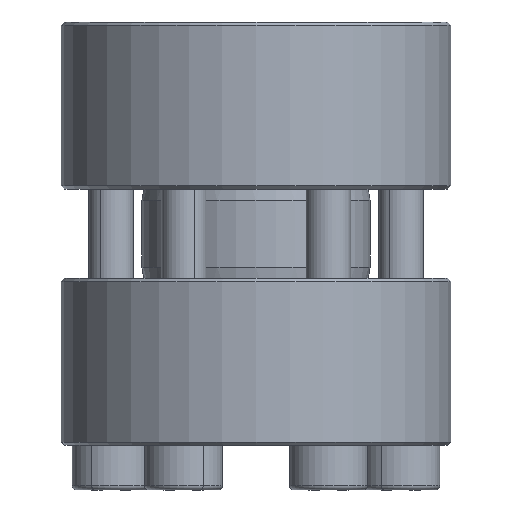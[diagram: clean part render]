
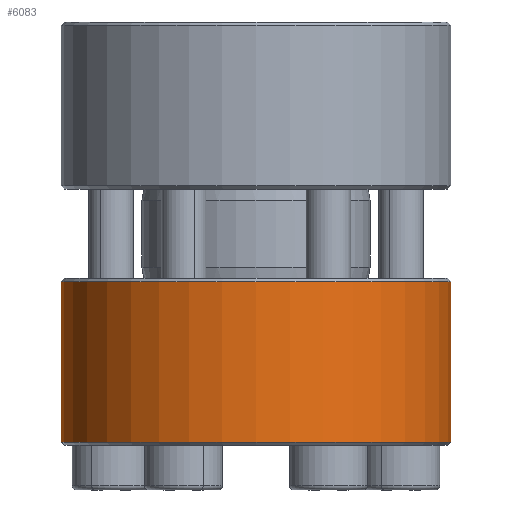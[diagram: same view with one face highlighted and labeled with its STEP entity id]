
A CAD part, front view. The second image highlights one B-rep face of the part: STEP entity #6083.
In plain terms, the highlighted cylindrical face has radius 17.5 mm (diameter 35 mm), a partial arc.
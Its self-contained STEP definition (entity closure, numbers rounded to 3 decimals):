
#106 = VECTOR ( 'NONE', #8405, 1000. ) ;
#374 = ORIENTED_EDGE ( 'NONE', *, *, #4731, .F. ) ;
#432 = DIRECTION ( 'NONE',  ( 0., 0., -1. ) ) ;
#887 = CARTESIAN_POINT ( 'NONE',  ( -17.5, 0., 14.7 ) ) ;
#1272 = CARTESIAN_POINT ( 'NONE',  ( 0., 0., 14.7 ) ) ;
#1707 = VERTEX_POINT ( 'NONE', #887 ) ;
#1927 = EDGE_CURVE ( 'NONE', #3865, #6802, #6300, .T. ) ;
#2040 = DIRECTION ( 'NONE',  ( 1., 0., 0. ) ) ;
#2343 = CYLINDRICAL_SURFACE ( 'NONE', #8531, 17.5 ) ;
#2411 = CARTESIAN_POINT ( 'NONE',  ( -17.5, 0., 15. ) ) ;
#2618 = EDGE_LOOP ( 'NONE', ( #374, #5631, #4538, #2831 ) ) ;
#2831 = ORIENTED_EDGE ( 'NONE', *, *, #1927, .T. ) ;
#2900 = AXIS2_PLACEMENT_3D ( 'NONE', #1272, #6507, #2040 ) ;
#3488 = CARTESIAN_POINT ( 'NONE',  ( 0., 0., 0.3 ) ) ;
#3764 = AXIS2_PLACEMENT_3D ( 'NONE', #3488, #8771, #4248 ) ;
#3826 = LINE ( 'NONE', #2411, #106 ) ;
#3865 = VERTEX_POINT ( 'NONE', #6347 ) ;
#4248 = DIRECTION ( 'NONE',  ( 1., 0., 0. ) ) ;
#4378 = CIRCLE ( 'NONE', #2900, 17.5 ) ;
#4443 = DIRECTION ( 'NONE',  ( 0., 0., -1. ) ) ;
#4538 = ORIENTED_EDGE ( 'NONE', *, *, #8615, .T. ) ;
#4578 = CARTESIAN_POINT ( 'NONE',  ( 17.5, 0., 14.7 ) ) ;
#4731 = EDGE_CURVE ( 'NONE', #9207, #6802, #8090, .T. ) ;
#4904 = CARTESIAN_POINT ( 'NONE',  ( 17.5, 0., 15. ) ) ;
#5631 = ORIENTED_EDGE ( 'NONE', *, *, #8308, .T. ) ;
#5748 = CARTESIAN_POINT ( 'NONE',  ( 17.5, 0., 0.3 ) ) ;
#6083 = ADVANCED_FACE ( 'NONE', ( #9065 ), #2343, .T. ) ;
#6300 = CIRCLE ( 'NONE', #3764, 17.5 ) ;
#6347 = CARTESIAN_POINT ( 'NONE',  ( -17.5, 0., 0.3 ) ) ;
#6507 = DIRECTION ( 'NONE',  ( 0., 0., -1. ) ) ;
#6802 = VERTEX_POINT ( 'NONE', #5748 ) ;
#7841 = VECTOR ( 'NONE', #432, 1000. ) ;
#8090 = LINE ( 'NONE', #4904, #7841 ) ;
#8308 = EDGE_CURVE ( 'NONE', #9207, #1707, #4378, .T. ) ;
#8405 = DIRECTION ( 'NONE',  ( 0., 0., -1. ) ) ;
#8531 = AXIS2_PLACEMENT_3D ( 'NONE', #9745, #4443, #9010 ) ;
#8615 = EDGE_CURVE ( 'NONE', #1707, #3865, #3826, .T. ) ;
#8771 = DIRECTION ( 'NONE',  ( 0., 0., 1. ) ) ;
#9010 = DIRECTION ( 'NONE',  ( -1., 0., 0. ) ) ;
#9065 = FACE_OUTER_BOUND ( 'NONE', #2618, .T. ) ;
#9207 = VERTEX_POINT ( 'NONE', #4578 ) ;
#9745 = CARTESIAN_POINT ( 'NONE',  ( 0., 0., 15. ) ) ;
